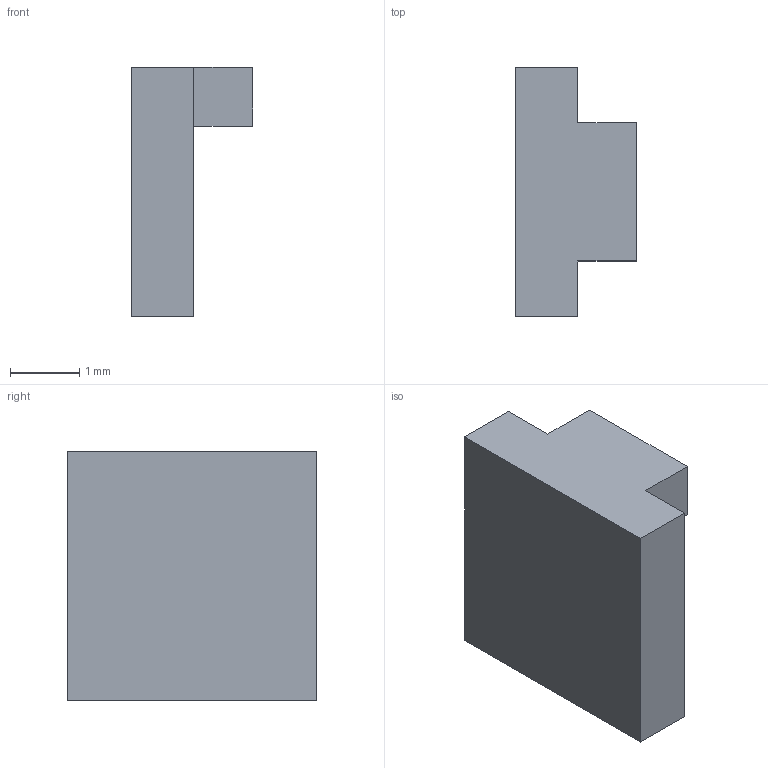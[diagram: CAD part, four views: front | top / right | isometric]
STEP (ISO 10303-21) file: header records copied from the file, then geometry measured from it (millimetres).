
FILE_DESCRIPTION(('Open CASCADE Model'),'2;1');
FILE_NAME('Open CASCADE Shape Model','2026-09-09T11:51:01',('Author'),( 'Open CASCADE'),'Open CASCADE STEP processor 7.7','Open CASCADE 7.7' ,'Unknown');
FILE_SCHEMA(('AUTOMOTIVE_DESIGN { 1 0 10303 214 1 1 1 1 }'));
Length unit declared in the file: millimetre
Products named in the file (1): Open CASCADE STEP translator 7.7 17
Bounding box: 1.75 x 3.6 x 3.6 mm (x, y, z)
Volume: 13.1 mm3; surface area: 43.7 mm2
Topology: 1 solids, 1 shells, 10 faces, 24 edges, 16 vertices
Faces by surface type: plane 10
Entity records: 610 total; most frequent: CARTESIAN_POINT 99, DIRECTION 94, LINE 72, VECTOR 72, ORIENTED_EDGE 48, PCURVE 48, DEFINITIONAL_REPRESENTATION 48, EDGE_CURVE 24
